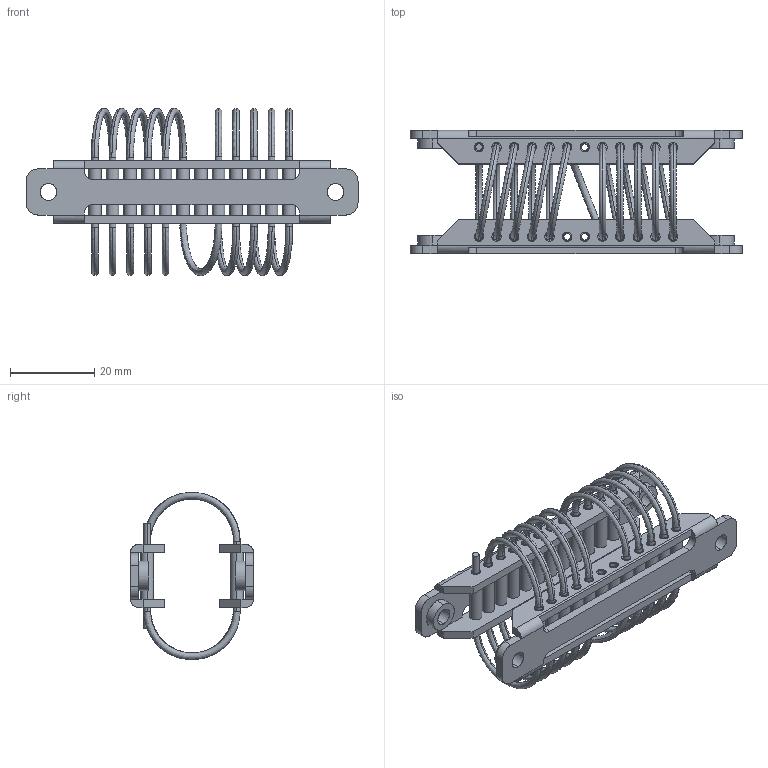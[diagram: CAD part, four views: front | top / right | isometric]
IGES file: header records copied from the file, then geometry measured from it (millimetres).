
Start section: SolidWorks IGES file using analytic representation for surfaces
Bounding box: 79 x 29.3 x 39.78 mm (x, y, z)
Surface area: 15381.5 mm2 (no closed solid volume)
Topology: 0 solids, 0 shells, 286 faces, 7501 edges, 7500 vertices
Faces by surface type: bspline 154, revolution 132
